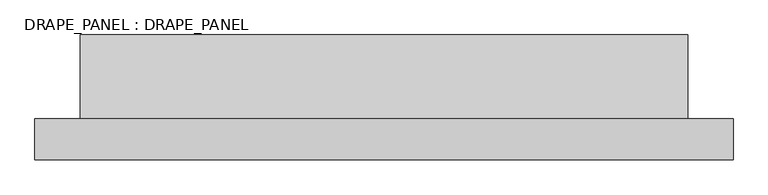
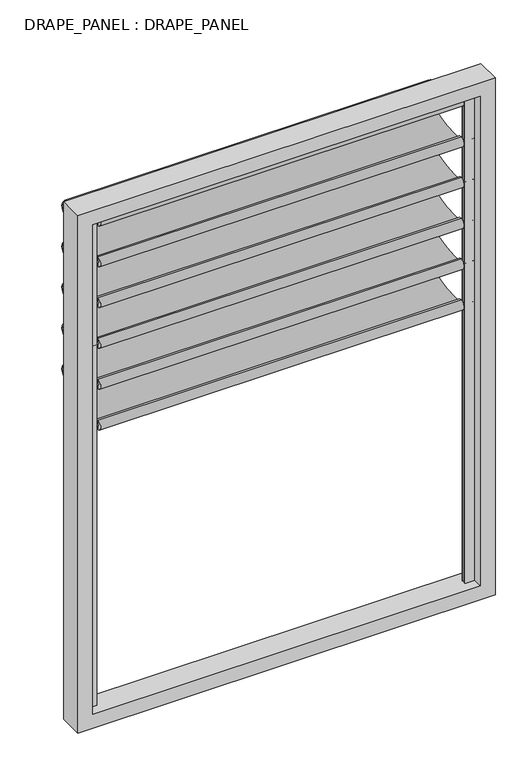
"""IFC4 building model written with IfcOpenShell, lengths in millimetres: plate geometry, DRAPE_PANEL : DRAPE_PANEL."""

import ifcopenshell
import ifcopenshell.guid

model = None  # the IFC model being written
_history = None  # IfcOwnerHistory: only IFC2X3 demands one
_inside = {}  # id of a spatial element -> (the spatial element, [elements in it])
_under = {}  # id of a project, library or spatial element -> (it, [spatial elements below it])
_declared = {}  # id of a project -> (the project, [libraries it declares])
_typed = {}  # id of a type object -> (the type object, [elements of that type])
_made_of = {}  # id of a material, layer set ... -> (it, [elements and type objects made of it])


def new_model(schema):
    """Start an empty IFC model of exactly this schema.

    Asked for "IFC4X3", IfcOpenShell would pick the latest addendum, in which some entities
    have other attributes; the version numbers below select the first issue.
    IFC2X3 requires an IfcOwnerHistory on every rooted entity: one is made here for all.
    """
    global model, _history
    if schema == "IFC4X3":
        model = ifcopenshell.file(schema_version=(4, 3, 0, 0))
    else:
        model = ifcopenshell.file(schema=schema)
    _inside.clear()
    _under.clear()
    _declared.clear()
    _typed.clear()
    _made_of.clear()
    _history = None
    if model.schema == "IFC2X3":
        org = make("IfcOrganization", Name="unknown")
        user = make(
            "IfcPersonAndOrganization",
            ThePerson=make("IfcPerson", FamilyName="unknown"),
            TheOrganization=org,
        )
        app = make(
            "IfcApplication",
            ApplicationDeveloper=org,
            Version="unknown",
            ApplicationFullName="unknown",
            ApplicationIdentifier="unknown",
        )
        _history = make(
            "IfcOwnerHistory",
            OwningUser=user,
            OwningApplication=app,
            ChangeAction="ADDED",
            CreationDate=0,
        )
    return model


def make(cls, **values):
    """One entity of the class cls with the attributes given. An attribute that is None is left unset."""
    return model.create_entity(
        cls, **{name: value for name, value in values.items() if value is not None}
    )


def rooted(cls, **values):
    """An entity with a GlobalId (a new one), such as an element, a storey or a relation."""
    return make(cls, GlobalId=ifcopenshell.guid.new(), OwnerHistory=_history, **values)


def si_unit(unit_type, name, prefix=None):
    """IfcSIUnit, for example si_unit("LENGTHUNIT", "METRE", prefix="MILLI")."""
    return make("IfcSIUnit", UnitType=unit_type, Prefix=prefix, Name=name)


def assignment(units):
    """IfcUnitAssignment: the units of a project."""
    return None if units is None else make("IfcUnitAssignment", Units=units)


def point(xyz):
    """IfcCartesianPoint."""
    return None if xyz is None else make("IfcCartesianPoint", Coordinates=xyz)


def direction(xyz):
    """IfcDirection."""
    return None if xyz is None else make("IfcDirection", DirectionRatios=xyz)


def frame(location, z_axis=None, x_axis=None):
    """IfcAxis2Placement3D, a coordinate frame: its origin and axes. An axis left out is left unset."""
    return make(
        "IfcAxis2Placement3D",
        Location=point(location),
        Axis=direction(z_axis),
        RefDirection=direction(x_axis),
    )


def origin():
    """The frame at (0, 0, 0) with its axes left unset."""
    return frame((0.0, 0.0, 0.0))


def place(relative_to, where):
    """IfcLocalPlacement: puts the frame where relative to a parent placement (None: the world)."""
    return make(
        "IfcLocalPlacement", PlacementRelTo=relative_to, RelativePlacement=where
    )


def context(
    kind, dimensions, precision=None, world=None, true_north=None, identifier=None
):
    """IfcGeometricRepresentationContext, for example the 3D "Model" context."""
    return make(
        "IfcGeometricRepresentationContext",
        ContextIdentifier=identifier,
        ContextType=kind,
        CoordinateSpaceDimension=dimensions,
        Precision=precision,
        WorldCoordinateSystem=world,
        TrueNorth=true_north,
    )


def project(units=None, contexts=None):
    """IfcProject with its units and contexts."""
    return rooted(
        "IfcProject",
        Name="project",
        RepresentationContexts=contexts,
        UnitsInContext=assignment(units),
    )


def spatial(cls, under=None, at=None, **own):
    """A site, building, storey or space (cls), placed at a placement, below another one or the project."""
    s = rooted(cls, ObjectPlacement=at, **own)
    if under is not None:
        _under.setdefault(under.id(), (under, []))[1].append(s)
    return s


def polyline(points):
    """IfcPolyline through the points."""
    return make("IfcPolyline", Points=[point(p) for p in points])


def circle_curve(where, radius):
    """IfcCircle in the frame where."""
    return make("IfcCircle", Position=where, Radius=radius)


def ellipse_curve(where, semi_axis1, semi_axis2):
    """IfcEllipse in the frame where."""
    return make(
        "IfcEllipse", Position=where, SemiAxis1=semi_axis1, SemiAxis2=semi_axis2
    )


def trimmed(basis, trim1, trim2, sense, master):
    """IfcTrimmedCurve: the piece of a basis curve between two trims."""
    return make(
        "IfcTrimmedCurve",
        BasisCurve=basis,
        Trim1=trim1,
        Trim2=trim2,
        SenseAgreement=sense,
        MasterRepresentation=master,
    )


def outline(outer, holes=None, kind="AREA"):
    """IfcArbitraryClosedProfileDef: a profile drawn as a closed curve; with holes, ...WithVoids."""
    if holes is None:
        return make("IfcArbitraryClosedProfileDef", ProfileType=kind, OuterCurve=outer)
    return make(
        "IfcArbitraryProfileDefWithVoids",
        ProfileType=kind,
        OuterCurve=outer,
        InnerCurves=holes,
    )


def extrude(swept, where, along, depth):
    """IfcExtrudedAreaSolid: the profile swept, set in the frame where, extruded along a direction by depth."""
    return make(
        "IfcExtrudedAreaSolid",
        SweptArea=swept,
        Position=where,
        ExtrudedDirection=direction(along),
        Depth=depth,
    )


def shape(context_of_items, identifier, shape_type, items):
    """IfcShapeRepresentation: the items that make up one representation, for example the "Body"."""
    return make(
        "IfcShapeRepresentation",
        ContextOfItems=context_of_items,
        RepresentationIdentifier=identifier,
        RepresentationType=shape_type,
        Items=items,
    )


def source(mapping_origin, context_of_items, identifier, shape_type, items):
    """IfcRepresentationMap: a shape defined once, which mapped items show again and again."""
    return make(
        "IfcRepresentationMap",
        MappingOrigin=mapping_origin,
        MappedRepresentation=shape(context_of_items, identifier, shape_type, items),
    )


def transform(
    local_origin,
    x_axis=None,
    y_axis=None,
    z_axis=None,
    scale=None,
    scale2=None,
    scale3=None,
    uniform=True,
):
    """IfcCartesianTransformationOperator3D, or its non-uniform kind. x_axis, y_axis, z_axis: its Axis1, 2, 3."""
    if uniform:
        return make(
            "IfcCartesianTransformationOperator3D",
            Axis1=direction(x_axis),
            Axis2=direction(y_axis),
            LocalOrigin=point(local_origin),
            Scale=scale,
            Axis3=direction(z_axis),
        )
    return make(
        "IfcCartesianTransformationOperator3DnonUniform",
        Axis1=direction(x_axis),
        Axis2=direction(y_axis),
        LocalOrigin=point(local_origin),
        Scale=scale,
        Axis3=direction(z_axis),
        Scale2=scale2,
        Scale3=scale3,
    )


def mapped(mapping_source, mapping_target):
    """IfcMappedItem: shows the shape of a source again, moved by a transform."""
    return make(
        "IfcMappedItem", MappingSource=mapping_source, MappingTarget=mapping_target
    )


def made_of(thing, what):
    """Note that an element or type object is made of a material, layer set ...; save() writes the relation."""
    if what is not None:
        _made_of.setdefault(what.id(), (what, []))[1].append(thing)
    return thing


def element(
    cls,
    number,
    at=None,
    inside=None,
    cuts=None,
    type_object=None,
    material=None,
    context=None,
    identifier="Body",
    shape_type=None,
    held_by="IfcProductDefinitionShape",
    body=None,
    shapes=None,
    **own,
):
    """One element of the class cls, such as IfcWall. Its Tag is "e" and its number.

    at: its placement. inside: the storey or other place that contains it. cuts: it is an
    opening in that element (IfcRelVoidsElement). A single representation is given by context,
    identifier, shape_type and body (its items); several are given by shapes. held_by: the class
    of the entity that holds the representations. save() writes the other relations.
    """
    e = rooted(cls, Tag="e%d" % number, ObjectPlacement=at, **own)
    if body is not None:
        shapes = [shape(context, identifier, shape_type, body)]
    if shapes is not None:
        e.Representation = make(held_by, Representations=shapes)
    if inside is not None:
        _inside.setdefault(inside.id(), (inside, []))[1].append(e)
    if cuts is not None:
        rooted(
            "IfcRelVoidsElement", RelatingBuildingElement=cuts, RelatedOpeningElement=e
        )
    if type_object is not None:
        _typed.setdefault(type_object.id(), (type_object, []))[1].append(e)
    return made_of(e, material)


def aggregate(whole, parts):
    """IfcRelAggregates: a whole, such as a stair, and the parts it consists of."""
    return rooted("IfcRelAggregates", RelatingObject=whole, RelatedObjects=parts)


def save(model, path):
    """Write the relations noted so far, then the file.

    IfcRelAggregates (storeys below a building ...), IfcRelContainedInSpatialStructure (elements
    in a storey), IfcRelDefinesByType, IfcRelAssociatesMaterial and IfcRelDeclares: one each for
    every whole, place, type object, material and project.
    """
    for whole, parts in _under.values():
        aggregate(whole, parts)
    for where, things in _inside.values():
        rooted(
            "IfcRelContainedInSpatialStructure",
            RelatedElements=things,
            RelatingStructure=where,
        )
    for kind, things in _typed.values():
        rooted("IfcRelDefinesByType", RelatedObjects=things, RelatingType=kind)
    for what, things in _made_of.values():
        rooted("IfcRelAssociatesMaterial", RelatedObjects=things, RelatingMaterial=what)
    for by, libraries in _declared.values():
        rooted("IfcRelDeclares", RelatingContext=by, RelatedDefinitions=libraries)
    model.write(path)


def plane_surface(at):
    """IfcPlane: the flat surface through the origin of the frame at, square to its z axis."""
    return make("IfcPlane", Position=at)


def cylinder_surface(at, radius):
    """IfcCylindricalSurface: all points at the distance radius from the z axis of the frame at."""
    return make("IfcCylindricalSurface", Position=at, Radius=radius)


def extruded_surface(curve, direction_of_extrusion, depth):
    """IfcSurfaceOfLinearExtrusion: the curve pushed along a direction by depth."""
    return make(
        "IfcSurfaceOfLinearExtrusion",
        SweptCurve=make("IfcArbitraryOpenProfileDef", ProfileType="CURVE", Curve=curve),
        ExtrudedDirection=direction(direction_of_extrusion),
        Depth=depth,
    )


def advanced_brep(points, edges, surfaces, faces):
    """IfcAdvancedBrep: a solid bounded by faces that lie on surfaces and meet in shared edges.

    An edge is (start, end): straight between two places in points (the first is 0);
    or (start, end, curve); or (start, end, curve, False) where it runs against its curve.
    A face is (place in surfaces, loops), or (place, loops, False) where it looks against
    its surface's normal. A loop lists edges by number (the first is 1), with a minus sign
    where the edge is run from its end to its start. The first loop is the outer one.
    """
    corners = [point(p) for p in points]
    vertices = [make("IfcVertexPoint", VertexGeometry=c) for c in corners]
    made = []
    for start, end, *more in edges:
        made.append(
            make(
                "IfcEdgeCurve",
                EdgeStart=vertices[start],
                EdgeEnd=vertices[end],
                EdgeGeometry=more[0] if more else make("IfcPolyline", Points=[corners[start], corners[end]]),
                SameSense=more[1] if len(more) > 1 else True,
            )
        )
    hull = []
    for where, loops, *sense in faces:
        bounds = []
        for j, loop in enumerate(loops):
            ring = [make("IfcOrientedEdge", EdgeElement=made[abs(k) - 1], Orientation=k > 0) for k in loop]
            bounds.append(
                make(
                    "IfcFaceOuterBound" if j == 0 else "IfcFaceBound",
                    Bound=make("IfcEdgeLoop", EdgeList=ring),
                    Orientation=True,
                )
            )
        hull.append(make("IfcAdvancedFace", Bounds=bounds, FaceSurface=surfaces[where], SameSense=sense[0] if sense else True))
    return make("IfcAdvancedBrep", Outer=make("IfcClosedShell", CfsFaces=hull))


def drape_panel_drape_panel_c3243e83(model_context):
    return source(origin(), model_context, "Body", "SolidModel", [
        advanced_brep(
        [(-790.0, 0.0, 1611.5019792), (-790.0, 0.0, 1616.5019792), (-790.0, 0.0, 1606.5019792), (790.0, 0.0, 1606.5019792), (790.0, 0.0, 1616.5019792), (790.0, 0.0, 1611.5019792), (740.0, 0.0, 1606.5019792), (740.0, 0.0, 1616.5019792), (740.0, 0.0, 1591.5019792), (740.0, 0.0, 1631.5019792), (-740.0, 0.0, 1591.5019792), (-740.0, 0.0, 1631.5019792), (-740.0, 0.0, 1606.5019792), (-740.0, 0.0, 1616.5019792)],
        [
            (0, 1),
            (1, 2, circle_curve(frame((-790.0, 0.0, 1611.5019792), z_axis=(-1.0, 0.0, 0.0), x_axis=(0.0, 0.0, 1.0)), 5.0)),
            (2, 0),
            (2, 1, circle_curve(frame((-790.0, 0.0, 1611.5019792), z_axis=(-1.0, 0.0, 0.0), x_axis=(0.0, 0.0, 1.0)), 5.0)),
            (3, 4, circle_curve(frame((790.0, 0.0, 1611.5019792), z_axis=(1.0, 0.0, 0.0), x_axis=(0.0, 0.0, 1.0)), 5.0)),
            (4, 5),
            (5, 3),
            (4, 3, circle_curve(frame((790.0, 0.0, 1611.5019792), z_axis=(1.0, 0.0, 0.0), x_axis=(0.0, 0.0, 1.0)), 5.0)),
            (6, 7, circle_curve(frame((740.0, 0.0, 1611.5019792), z_axis=(1.0, 0.0, 0.0), x_axis=(0.0, 0.0, 1.0)), 5.0)),
            (7, 4),
            (3, 6),
            (7, 6, circle_curve(frame((740.0, 0.0, 1611.5019792), z_axis=(1.0, 0.0, 0.0), x_axis=(0.0, 0.0, 1.0)), 5.0)),
            (8, 9, circle_curve(frame((740.0, 0.0, 1611.5019792), z_axis=(1.0, 0.0, 0.0), x_axis=(0.0, 0.0, 1.0)), 20.0)),
            (9, 7),
            (6, 8),
            (9, 8, circle_curve(frame((740.0, 0.0, 1611.5019792), z_axis=(1.0, 0.0, 0.0), x_axis=(0.0, 0.0, 1.0)), 20.0)),
            (10, 11, circle_curve(frame((-740.0, 0.0, 1611.5019792), z_axis=(1.0, 0.0, 0.0), x_axis=(0.0, 0.0, 1.0)), 20.0)),
            (11, 9),
            (8, 10),
            (11, 10, circle_curve(frame((-740.0, 0.0, 1611.5019792), z_axis=(1.0, 0.0, 0.0), x_axis=(0.0, 0.0, 1.0)), 20.0)),
            (12, 13, circle_curve(frame((-740.0, 0.0, 1611.5019792), z_axis=(1.0, 0.0, 0.0), x_axis=(0.0, 0.0, 1.0)), 5.0)),
            (13, 11),
            (10, 12),
            (13, 12, circle_curve(frame((-740.0, 0.0, 1611.5019792), z_axis=(1.0, 0.0, 0.0), x_axis=(0.0, 0.0, 1.0)), 5.0)),
            (1, 13),
            (12, 2),
        ],
        [
            plane_surface(frame((-790.0, 0.0, 1611.5019792), z_axis=(-1.0, 0.0, 0.0), x_axis=(0.0, 0.0, 1.0))),
            plane_surface(frame((790.0, 0.0, 1611.5019792), z_axis=(1.0, 0.0, 0.0), x_axis=(0.0, 0.0, 1.0))),
            cylinder_surface(frame((6238.8752301, 0.0, 1611.5019792), z_axis=(-1.0, 0.0, 0.0), x_axis=(0.0, 0.0, 1.0)), 5.0),
            plane_surface(frame((740.0, 0.0, 1611.5019792), z_axis=(1.0, 0.0, 0.0), x_axis=(0.0, 0.0, 1.0))),
            cylinder_surface(frame((6238.8752301, 0.0, 1611.5019792), z_axis=(-1.0, 0.0, 0.0), x_axis=(0.0, 0.0, 1.0)), 20.0),
            plane_surface(frame((-740.0, 0.0, 1611.5019792), z_axis=(-1.0, 0.0, 0.0), x_axis=(0.0, 0.0, 1.0))),
        ],
        [
            (0, [[1, 2, 3]]),
            (0, [[-3, 4, -1]]),
            (1, [[5, 6, 7]]),
            (1, [[8, -7, -6]]),
            (2, [[9, 10, -5, 11]]),
            (2, [[12, -11, -8, -10]]),
            (3, [[13, 14, -9, 15]]),
            (3, [[16, -15, -12, -14]]),
            (4, [[17, 18, -13, 19]]),
            (4, [[20, -19, -16, -18]]),
            (5, [[21, 22, -17, 23]]),
            (5, [[24, -23, -20, -22]]),
            (2, [[-2, 25, -21, 26]]),
            (2, [[-4, -26, -24, -25]]),
        ],
    ),
        advanced_brep(
        [(740.0, 0.0, 1611.5019792), (740.0, 0.0, 1608.5019792), (740.0, 0.0, 1438.7509896), (740.0, 0.0, 1435.7509896), (-740.0, 0.0, 1611.5019792), (-740.0, 0.0, 1435.7509896), (-740.0, 0.0, 1438.7509896), (-740.0, 0.0, 1608.5019792)],
        [
            (0, 1),
            (1, 2, ellipse_curve(frame((740.0, 0.0, 1523.6264844), z_axis=(-1.0, 0.0, 0.0), x_axis=(0.0, -1.0, 0.0)), 250.5597903, 84.8754948)),
            (2, 3),
            (3, 0, ellipse_curve(frame((740.0, 0.0, 1523.6264844), z_axis=(1.0, 0.0, 0.0), x_axis=(0.0, 1.0, 0.0)), 253.5597903, 87.8754948)),
            (4, 5, ellipse_curve(frame((-740.0, 0.0, 1523.6264844), z_axis=(-1.0, 0.0, 0.0), x_axis=(0.0, 0.0, -1.0)), 87.8754948, 253.5597903)),
            (5, 6),
            (6, 7, ellipse_curve(frame((-740.0, 0.0, 1523.6264844), z_axis=(1.0, 0.0, 0.0), x_axis=(0.0, 0.0, -1.0)), 84.8754948, 250.5597903)),
            (7, 4),
            (0, 4),
            (7, 1),
            (6, 2),
            (5, 3),
        ],
        [
            plane_surface(frame((740.0, 0.0, 1611.5019792), z_axis=(1.0, 0.0, 0.0), x_axis=(0.0, -1.9626251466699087e-12, -1.0))),
            plane_surface(frame((-740.0, 0.0, 1611.5019792), z_axis=(-1.0, 0.0, 0.0), x_axis=(0.0, 1.9626251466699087e-12, 1.0))),
            plane_surface(frame((740.0, 0.0, 1611.5019792), z_axis=(0.0, -1.0, 1.9626251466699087e-12), x_axis=(-1.0, 0.0, 0.0))),
            extruded_surface(trimmed(ellipse_curve(frame((-2220.0, 0.0, 1523.6264844), z_axis=(-1.0, 0.0, 0.0), x_axis=(0.0, 0.0, -1.0)), 84.8754948, 250.5597903), [point((-2220.0, 0.0, 1608.5019792))], [point((-2220.0, 0.0, 1438.7509896))], True, "CARTESIAN"), (1480.0, 0.0, 0.0), 1480.0),
            plane_surface(frame((740.0, 0.0, 1438.7509896), z_axis=(0.0, -1.0, 0.0), x_axis=(-1.0, 0.0, 0.0))),
            extruded_surface(trimmed(ellipse_curve(frame((-2220.0, 0.0, 1523.6264844), z_axis=(1.0, 0.0, 0.0), x_axis=(0.0, 0.0, -1.0)), 87.8754948, 253.5597903), [point((-2220.0, 0.0, 1435.7509896))], [point((-2220.0, 0.0, 1611.5019792))], True, "CARTESIAN"), (1480.0, 0.0, 0.0), 1480.0),
        ],
        [
            (0, [[1, 2, 3, 4]]),
            (1, [[5, 6, 7, 8]]),
            (2, [[-1, 9, -8, 10]]),
            (3, [[-2, -10, -7, 11]]),
            (4, [[-3, -11, -6, 12]]),
            (5, [[-4, -12, -5, -9]]),
        ],
    ),
        advanced_brep(
        [(-790.0, 0.0, 1787.2529688), (-790.0, 0.0, 1792.2529688), (-790.0, 0.0, 1782.2529688), (790.0, 0.0, 1782.2529688), (790.0, 0.0, 1792.2529688), (790.0, 0.0, 1787.2529688), (740.0, 0.0, 1782.2529688), (740.0, 0.0, 1792.2529688), (740.0, 0.0, 1767.2529688), (740.0, 0.0, 1807.2529688), (-740.0, 0.0, 1767.2529688), (-740.0, 0.0, 1807.2529688), (-740.0, 0.0, 1782.2529688), (-740.0, 0.0, 1792.2529688)],
        [
            (0, 1),
            (1, 2, circle_curve(frame((-790.0, 0.0, 1787.2529688), z_axis=(-1.0, 0.0, 0.0), x_axis=(0.0, 0.0, 1.0)), 5.0)),
            (2, 0),
            (2, 1, circle_curve(frame((-790.0, 0.0, 1787.2529688), z_axis=(-1.0, 0.0, 0.0), x_axis=(0.0, 0.0, 1.0)), 5.0)),
            (3, 4, circle_curve(frame((790.0, 0.0, 1787.2529688), z_axis=(1.0, 0.0, 0.0), x_axis=(0.0, 0.0, 1.0)), 5.0)),
            (4, 5),
            (5, 3),
            (4, 3, circle_curve(frame((790.0, 0.0, 1787.2529688), z_axis=(1.0, 0.0, 0.0), x_axis=(0.0, 0.0, 1.0)), 5.0)),
            (6, 7, circle_curve(frame((740.0, 0.0, 1787.2529688), z_axis=(1.0, 0.0, 0.0), x_axis=(0.0, 0.0, 1.0)), 5.0)),
            (7, 4),
            (3, 6),
            (7, 6, circle_curve(frame((740.0, 0.0, 1787.2529688), z_axis=(1.0, 0.0, 0.0), x_axis=(0.0, 0.0, 1.0)), 5.0)),
            (8, 9, circle_curve(frame((740.0, 0.0, 1787.2529688), z_axis=(1.0, 0.0, 0.0), x_axis=(0.0, 0.0, 1.0)), 20.0)),
            (9, 7),
            (6, 8),
            (9, 8, circle_curve(frame((740.0, 0.0, 1787.2529688), z_axis=(1.0, 0.0, 0.0), x_axis=(0.0, 0.0, 1.0)), 20.0)),
            (10, 11, circle_curve(frame((-740.0, 0.0, 1787.2529688), z_axis=(1.0, 0.0, 0.0), x_axis=(0.0, 0.0, 1.0)), 20.0)),
            (11, 9),
            (8, 10),
            (11, 10, circle_curve(frame((-740.0, 0.0, 1787.2529688), z_axis=(1.0, 0.0, 0.0), x_axis=(0.0, 0.0, 1.0)), 20.0)),
            (12, 13, circle_curve(frame((-740.0, 0.0, 1787.2529688), z_axis=(1.0, 0.0, 0.0), x_axis=(0.0, 0.0, 1.0)), 5.0)),
            (13, 11),
            (10, 12),
            (13, 12, circle_curve(frame((-740.0, 0.0, 1787.2529688), z_axis=(1.0, 0.0, 0.0), x_axis=(0.0, 0.0, 1.0)), 5.0)),
            (1, 13),
            (12, 2),
        ],
        [
            plane_surface(frame((-790.0, 0.0, 1787.2529688), z_axis=(-1.0, 0.0, 0.0), x_axis=(0.0, 0.0, 1.0))),
            plane_surface(frame((790.0, 0.0, 1787.2529688), z_axis=(1.0, 0.0, 0.0), x_axis=(0.0, 0.0, 1.0))),
            cylinder_surface(frame((6238.8752301, 0.0, 1787.2529688), z_axis=(-1.0, 0.0, 0.0), x_axis=(0.0, 0.0, 1.0)), 5.0),
            plane_surface(frame((740.0, 0.0, 1787.2529688), z_axis=(1.0, 0.0, 0.0), x_axis=(0.0, 0.0, 1.0))),
            cylinder_surface(frame((6238.8752301, 0.0, 1787.2529688), z_axis=(-1.0, 0.0, 0.0), x_axis=(0.0, 0.0, 1.0)), 20.0),
            plane_surface(frame((-740.0, 0.0, 1787.2529688), z_axis=(-1.0, 0.0, 0.0), x_axis=(0.0, 0.0, 1.0))),
        ],
        [
            (0, [[1, 2, 3]]),
            (0, [[-3, 4, -1]]),
            (1, [[5, 6, 7]]),
            (1, [[8, -7, -6]]),
            (2, [[9, 10, -5, 11]]),
            (2, [[12, -11, -8, -10]]),
            (3, [[13, 14, -9, 15]]),
            (3, [[16, -15, -12, -14]]),
            (4, [[17, 18, -13, 19]]),
            (4, [[20, -19, -16, -18]]),
            (5, [[21, 22, -17, 23]]),
            (5, [[24, -23, -20, -22]]),
            (2, [[-2, 25, -21, 26]]),
            (2, [[-4, -26, -24, -25]]),
        ],
    ),
        advanced_brep(
        [(740.0, 0.0, 1787.2529688), (740.0, 0.0, 1784.2529688), (740.0, 0.0, 1614.5019792), (740.0, 0.0, 1611.5019792), (-740.0, 0.0, 1787.2529688), (-740.0, 0.0, 1611.5019792), (-740.0, 0.0, 1614.5019792), (-740.0, 0.0, 1784.2529688)],
        [
            (0, 1),
            (1, 2, ellipse_curve(frame((740.0, 0.0, 1699.377474), z_axis=(-1.0, 0.0, 0.0), x_axis=(0.0, -1.0, 0.0)), 250.5597903, 84.8754948)),
            (2, 3),
            (3, 0, ellipse_curve(frame((740.0, 0.0, 1699.377474), z_axis=(1.0, 0.0, 0.0), x_axis=(0.0, 1.0, 0.0)), 253.5597903, 87.8754948)),
            (4, 5, ellipse_curve(frame((-740.0, 0.0, 1699.377474), z_axis=(-1.0, 0.0, 0.0), x_axis=(0.0, 0.0, -1.0)), 87.8754948, 253.5597903)),
            (5, 6),
            (6, 7, ellipse_curve(frame((-740.0, 0.0, 1699.377474), z_axis=(1.0, 0.0, 0.0), x_axis=(0.0, 0.0, -1.0)), 84.8754948, 250.5597903)),
            (7, 4),
            (0, 4),
            (7, 1),
            (6, 2),
            (5, 3),
        ],
        [
            plane_surface(frame((740.0, 0.0, 1787.2529688), z_axis=(1.0, 0.0, 0.0), x_axis=(0.0, -1.9626251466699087e-12, -1.0))),
            plane_surface(frame((-740.0, 0.0, 1787.2529688), z_axis=(-1.0, 0.0, 0.0), x_axis=(0.0, 1.9626251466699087e-12, 1.0))),
            plane_surface(frame((740.0, 0.0, 1787.2529688), z_axis=(0.0, -1.0, 1.9626251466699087e-12), x_axis=(-1.0, 0.0, 0.0))),
            extruded_surface(trimmed(ellipse_curve(frame((-2220.0, 0.0, 1699.377474), z_axis=(-1.0, 0.0, 0.0), x_axis=(0.0, 0.0, -1.0)), 84.8754948, 250.5597903), [point((-2220.0, 0.0, 1784.2529688))], [point((-2220.0, 0.0, 1614.5019792))], True, "CARTESIAN"), (1480.0, 0.0, 0.0), 1480.0),
            plane_surface(frame((740.0, 0.0, 1614.5019792), z_axis=(0.0, -1.0, 0.0), x_axis=(-1.0, 0.0, 0.0))),
            extruded_surface(trimmed(ellipse_curve(frame((-2220.0, 0.0, 1699.377474), z_axis=(1.0, 0.0, 0.0), x_axis=(0.0, 0.0, -1.0)), 87.8754948, 253.5597903), [point((-2220.0, 0.0, 1611.5019792))], [point((-2220.0, 0.0, 1787.2529688))], True, "CARTESIAN"), (1480.0, 0.0, 0.0), 1480.0),
        ],
        [
            (0, [[1, 2, 3, 4]]),
            (1, [[5, 6, 7, 8]]),
            (2, [[-1, 9, -8, 10]]),
            (3, [[-2, -10, -7, 11]]),
            (4, [[-3, -11, -6, 12]]),
            (5, [[-4, -12, -5, -9]]),
        ],
    ),
        advanced_brep(
        [(-790.0, 0.0, 1963.0039583), (-790.0, 0.0, 1968.0039583), (-790.0, 0.0, 1958.0039583), (790.0, 0.0, 1958.0039583), (790.0, 0.0, 1968.0039583), (790.0, 0.0, 1963.0039583), (740.0, 0.0, 1958.0039583), (740.0, 0.0, 1968.0039583), (740.0, 0.0, 1943.0039583), (740.0, 0.0, 1983.0039583), (-740.0, 0.0, 1943.0039583), (-740.0, 0.0, 1983.0039583), (-740.0, 0.0, 1958.0039583), (-740.0, 0.0, 1968.0039583)],
        [
            (0, 1),
            (1, 2, circle_curve(frame((-790.0, 0.0, 1963.0039583), z_axis=(-1.0, 0.0, 0.0), x_axis=(0.0, 0.0, 1.0)), 5.0)),
            (2, 0),
            (2, 1, circle_curve(frame((-790.0, 0.0, 1963.0039583), z_axis=(-1.0, 0.0, 0.0), x_axis=(0.0, 0.0, 1.0)), 5.0)),
            (3, 4, circle_curve(frame((790.0, 0.0, 1963.0039583), z_axis=(1.0, 0.0, 0.0), x_axis=(0.0, 0.0, 1.0)), 5.0)),
            (4, 5),
            (5, 3),
            (4, 3, circle_curve(frame((790.0, 0.0, 1963.0039583), z_axis=(1.0, 0.0, 0.0), x_axis=(0.0, 0.0, 1.0)), 5.0)),
            (6, 7, circle_curve(frame((740.0, 0.0, 1963.0039583), z_axis=(1.0, 0.0, 0.0), x_axis=(0.0, 0.0, 1.0)), 5.0)),
            (7, 4),
            (3, 6),
            (7, 6, circle_curve(frame((740.0, 0.0, 1963.0039583), z_axis=(1.0, 0.0, 0.0), x_axis=(0.0, 0.0, 1.0)), 5.0)),
            (8, 9, circle_curve(frame((740.0, 0.0, 1963.0039583), z_axis=(1.0, 0.0, 0.0), x_axis=(0.0, 0.0, 1.0)), 20.0)),
            (9, 7),
            (6, 8),
            (9, 8, circle_curve(frame((740.0, 0.0, 1963.0039583), z_axis=(1.0, 0.0, 0.0), x_axis=(0.0, 0.0, 1.0)), 20.0)),
            (10, 11, circle_curve(frame((-740.0, 0.0, 1963.0039583), z_axis=(1.0, 0.0, 0.0), x_axis=(0.0, 0.0, 1.0)), 20.0)),
            (11, 9),
            (8, 10),
            (11, 10, circle_curve(frame((-740.0, 0.0, 1963.0039583), z_axis=(1.0, 0.0, 0.0), x_axis=(0.0, 0.0, 1.0)), 20.0)),
            (12, 13, circle_curve(frame((-740.0, 0.0, 1963.0039583), z_axis=(1.0, 0.0, 0.0), x_axis=(0.0, 0.0, 1.0)), 5.0)),
            (13, 11),
            (10, 12),
            (13, 12, circle_curve(frame((-740.0, 0.0, 1963.0039583), z_axis=(1.0, 0.0, 0.0), x_axis=(0.0, 0.0, 1.0)), 5.0)),
            (1, 13),
            (12, 2),
        ],
        [
            plane_surface(frame((-790.0, 0.0, 1963.0039583), z_axis=(-1.0, 0.0, 0.0), x_axis=(0.0, 0.0, 1.0))),
            plane_surface(frame((790.0, 0.0, 1963.0039583), z_axis=(1.0, 0.0, 0.0), x_axis=(0.0, 0.0, 1.0))),
            cylinder_surface(frame((6238.8752301, 0.0, 1963.0039583), z_axis=(-1.0, 0.0, 0.0), x_axis=(0.0, 0.0, 1.0)), 5.0),
            plane_surface(frame((740.0, 0.0, 1963.0039583), z_axis=(1.0, 0.0, 0.0), x_axis=(0.0, 0.0, 1.0))),
            cylinder_surface(frame((6238.8752301, 0.0, 1963.0039583), z_axis=(-1.0, 0.0, 0.0), x_axis=(0.0, 0.0, 1.0)), 20.0),
            plane_surface(frame((-740.0, 0.0, 1963.0039583), z_axis=(-1.0, 0.0, 0.0), x_axis=(0.0, 0.0, 1.0))),
        ],
        [
            (0, [[1, 2, 3]]),
            (0, [[-3, 4, -1]]),
            (1, [[5, 6, 7]]),
            (1, [[8, -7, -6]]),
            (2, [[9, 10, -5, 11]]),
            (2, [[12, -11, -8, -10]]),
            (3, [[13, 14, -9, 15]]),
            (3, [[16, -15, -12, -14]]),
            (4, [[17, 18, -13, 19]]),
            (4, [[20, -19, -16, -18]]),
            (5, [[21, 22, -17, 23]]),
            (5, [[24, -23, -20, -22]]),
            (2, [[-2, 25, -21, 26]]),
            (2, [[-4, -26, -24, -25]]),
        ],
    ),
        advanced_brep(
        [(740.0, 0.0, 1963.0039583), (740.0, 0.0, 1960.0039583), (740.0, 0.0, 1790.2529688), (740.0, 0.0, 1787.2529688), (-740.0, 0.0, 1963.0039583), (-740.0, 0.0, 1787.2529688), (-740.0, 0.0, 1790.2529688), (-740.0, 0.0, 1960.0039583)],
        [
            (0, 1),
            (1, 2, ellipse_curve(frame((740.0, 0.0, 1875.1284635), z_axis=(-1.0, 0.0, 0.0), x_axis=(0.0, -1.0, 0.0)), 250.5597903, 84.8754948)),
            (2, 3),
            (3, 0, ellipse_curve(frame((740.0, 0.0, 1875.1284635), z_axis=(1.0, 0.0, 0.0), x_axis=(0.0, 1.0, 0.0)), 253.5597903, 87.8754948)),
            (4, 5, ellipse_curve(frame((-740.0, 0.0, 1875.1284635), z_axis=(-1.0, 0.0, 0.0), x_axis=(0.0, 0.0, -1.0)), 87.8754948, 253.5597903)),
            (5, 6),
            (6, 7, ellipse_curve(frame((-740.0, 0.0, 1875.1284635), z_axis=(1.0, 0.0, 0.0), x_axis=(0.0, 0.0, -1.0)), 84.8754948, 250.5597903)),
            (7, 4),
            (0, 4),
            (7, 1),
            (6, 2),
            (5, 3),
        ],
        [
            plane_surface(frame((740.0, 0.0, 1963.0039583), z_axis=(1.0, 0.0, 0.0), x_axis=(0.0, -1.9626251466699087e-12, -1.0))),
            plane_surface(frame((-740.0, 0.0, 1963.0039583), z_axis=(-1.0, 0.0, 0.0), x_axis=(0.0, 1.9626251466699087e-12, 1.0))),
            plane_surface(frame((740.0, 0.0, 1963.0039583), z_axis=(0.0, -1.0, 1.9626251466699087e-12), x_axis=(-1.0, 0.0, 0.0))),
            extruded_surface(trimmed(ellipse_curve(frame((-2220.0, 0.0, 1875.1284635), z_axis=(-1.0, 0.0, 0.0), x_axis=(0.0, 0.0, -1.0)), 84.8754948, 250.5597903), [point((-2220.0, 0.0, 1960.0039583))], [point((-2220.0, 0.0, 1790.2529687))], True, "CARTESIAN"), (1480.0, 0.0, 0.0), 1480.0),
            plane_surface(frame((740.0, 0.0, 1790.2529688), z_axis=(0.0, -1.0, 0.0), x_axis=(-1.0, 0.0, 0.0))),
            extruded_surface(trimmed(ellipse_curve(frame((-2220.0, 0.0, 1875.1284635), z_axis=(1.0, 0.0, 0.0), x_axis=(0.0, 0.0, -1.0)), 87.8754948, 253.5597903), [point((-2220.0, 0.0, 1787.2529688))], [point((-2220.0, 0.0, 1963.0039583))], True, "CARTESIAN"), (1480.0, 0.0, 0.0), 1480.0),
        ],
        [
            (0, [[1, 2, 3, 4]]),
            (1, [[5, 6, 7, 8]]),
            (2, [[-1, 9, -8, 10]]),
            (3, [[-2, -10, -7, 11]]),
            (4, [[-3, -11, -6, 12]]),
            (5, [[-4, -12, -5, -9]]),
        ],
    ),
        advanced_brep(
        [(-790.0, 0.0, 1435.7509896), (-790.0, 0.0, 1440.7509896), (-790.0, 0.0, 1430.7509896), (790.0, 0.0, 1430.7509896), (790.0, 0.0, 1440.7509896), (790.0, 0.0, 1435.7509896), (740.0, 0.0, 1430.7509896), (740.0, 0.0, 1440.7509896), (740.0, 0.0, 1415.7509896), (740.0, 0.0, 1455.7509896), (-740.0, 0.0, 1415.7509896), (-740.0, 0.0, 1455.7509896), (-740.0, 0.0, 1430.7509896), (-740.0, 0.0, 1440.7509896)],
        [
            (0, 1),
            (1, 2, circle_curve(frame((-790.0, 0.0, 1435.7509896), z_axis=(-1.0, 0.0, 0.0), x_axis=(0.0, 0.0, 1.0)), 5.0)),
            (2, 0),
            (2, 1, circle_curve(frame((-790.0, 0.0, 1435.7509896), z_axis=(-1.0, 0.0, 0.0), x_axis=(0.0, 0.0, 1.0)), 5.0)),
            (3, 4, circle_curve(frame((790.0, 0.0, 1435.7509896), z_axis=(1.0, 0.0, 0.0), x_axis=(0.0, 0.0, 1.0)), 5.0)),
            (4, 5),
            (5, 3),
            (4, 3, circle_curve(frame((790.0, 0.0, 1435.7509896), z_axis=(1.0, 0.0, 0.0), x_axis=(0.0, 0.0, 1.0)), 5.0)),
            (6, 7, circle_curve(frame((740.0, 0.0, 1435.7509896), z_axis=(1.0, 0.0, 0.0), x_axis=(0.0, 0.0, 1.0)), 5.0)),
            (7, 4),
            (3, 6),
            (7, 6, circle_curve(frame((740.0, 0.0, 1435.7509896), z_axis=(1.0, 0.0, 0.0), x_axis=(0.0, 0.0, 1.0)), 5.0)),
            (8, 9, circle_curve(frame((740.0, 0.0, 1435.7509896), z_axis=(1.0, 0.0, 0.0), x_axis=(0.0, 0.0, 1.0)), 20.0)),
            (9, 7),
            (6, 8),
            (9, 8, circle_curve(frame((740.0, 0.0, 1435.7509896), z_axis=(1.0, 0.0, 0.0), x_axis=(0.0, 0.0, 1.0)), 20.0)),
            (10, 11, circle_curve(frame((-740.0, 0.0, 1435.7509896), z_axis=(1.0, 0.0, 0.0), x_axis=(0.0, 0.0, 1.0)), 20.0)),
            (11, 9),
            (8, 10),
            (11, 10, circle_curve(frame((-740.0, 0.0, 1435.7509896), z_axis=(1.0, 0.0, 0.0), x_axis=(0.0, 0.0, 1.0)), 20.0)),
            (12, 13, circle_curve(frame((-740.0, 0.0, 1435.7509896), z_axis=(1.0, 0.0, 0.0), x_axis=(0.0, 0.0, 1.0)), 5.0)),
            (13, 11),
            (10, 12),
            (13, 12, circle_curve(frame((-740.0, 0.0, 1435.7509896), z_axis=(1.0, 0.0, 0.0), x_axis=(0.0, 0.0, 1.0)), 5.0)),
            (1, 13),
            (12, 2),
        ],
        [
            plane_surface(frame((-790.0, 0.0, 1435.7509896), z_axis=(-1.0, 0.0, 0.0), x_axis=(0.0, 0.0, 1.0))),
            plane_surface(frame((790.0, 0.0, 1435.7509896), z_axis=(1.0, 0.0, 0.0), x_axis=(0.0, 0.0, 1.0))),
            cylinder_surface(frame((6238.8752301, 0.0, 1435.7509896), z_axis=(-1.0, 0.0, 0.0), x_axis=(0.0, 0.0, 1.0)), 5.0),
            plane_surface(frame((740.0, 0.0, 1435.7509896), z_axis=(1.0, 0.0, 0.0), x_axis=(0.0, 0.0, 1.0))),
            cylinder_surface(frame((6238.8752301, 0.0, 1435.7509896), z_axis=(-1.0, 0.0, 0.0), x_axis=(0.0, 0.0, 1.0)), 20.0),
            plane_surface(frame((-740.0, 0.0, 1435.7509896), z_axis=(-1.0, 0.0, 0.0), x_axis=(0.0, 0.0, 1.0))),
        ],
        [
            (0, [[1, 2, 3]]),
            (0, [[-3, 4, -1]]),
            (1, [[5, 6, 7]]),
            (1, [[8, -7, -6]]),
            (2, [[9, 10, -5, 11]]),
            (2, [[12, -11, -8, -10]]),
            (3, [[13, 14, -9, 15]]),
            (3, [[16, -15, -12, -14]]),
            (4, [[17, 18, -13, 19]]),
            (4, [[20, -19, -16, -18]]),
            (5, [[21, 22, -17, 23]]),
            (5, [[24, -23, -20, -22]]),
            (2, [[-2, 25, -21, 26]]),
            (2, [[-4, -26, -24, -25]]),
        ],
    ),
        advanced_brep(
        [(740.0, 0.0, 1435.7509896), (740.0, 0.0, 1432.7509896), (740.0, 0.0, 1263.0), (740.0, 0.0, 1260.0), (-740.0, 0.0, 1435.7509896), (-740.0, 0.0, 1260.0), (-740.0, 0.0, 1263.0), (-740.0, 0.0, 1432.7509896)],
        [
            (0, 1),
            (1, 2, ellipse_curve(frame((740.0, 0.0, 1347.8754948), z_axis=(-1.0, 0.0, 0.0), x_axis=(0.0, -1.0, 0.0)), 250.5597903, 84.8754948)),
            (2, 3),
            (3, 0, ellipse_curve(frame((740.0, 0.0, 1347.8754948), z_axis=(1.0, 0.0, 0.0), x_axis=(0.0, 1.0, 0.0)), 253.5597903, 87.8754948)),
            (4, 5, ellipse_curve(frame((-740.0, 0.0, 1347.8754948), z_axis=(-1.0, 0.0, 0.0), x_axis=(0.0, 0.0, -1.0)), 87.8754948, 253.5597903)),
            (5, 6),
            (6, 7, ellipse_curve(frame((-740.0, 0.0, 1347.8754948), z_axis=(1.0, 0.0, 0.0), x_axis=(0.0, 0.0, -1.0)), 84.8754948, 250.5597903)),
            (7, 4),
            (0, 4),
            (7, 1),
            (6, 2),
            (5, 3),
        ],
        [
            plane_surface(frame((740.0, 0.0, 1435.7509896), z_axis=(1.0, 0.0, 0.0), x_axis=(0.0, -1.9626251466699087e-12, -1.0))),
            plane_surface(frame((-740.0, 0.0, 1435.7509896), z_axis=(-1.0, 0.0, 0.0), x_axis=(0.0, 1.9626251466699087e-12, 1.0))),
            plane_surface(frame((740.0, 0.0, 1435.7509896), z_axis=(0.0, -1.0, 1.9626251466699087e-12), x_axis=(-1.0, 0.0, 0.0))),
            extruded_surface(trimmed(ellipse_curve(frame((-2220.0, 0.0, 1347.8754948), z_axis=(-1.0, 0.0, 0.0), x_axis=(0.0, 0.0, -1.0)), 84.8754948, 250.5597903), [point((-2220.0, 0.0, 1432.7509896))], [point((-2220.0, 0.0, 1263.0))], True, "CARTESIAN"), (1480.0, 0.0, 0.0), 1480.0),
            plane_surface(frame((740.0, 0.0, 1263.0), z_axis=(0.0, -1.0, 0.0), x_axis=(-1.0, 0.0, 0.0))),
            extruded_surface(trimmed(ellipse_curve(frame((-2220.0, 0.0, 1347.8754948), z_axis=(1.0, 0.0, 0.0), x_axis=(0.0, 0.0, -1.0)), 87.8754948, 253.5597903), [point((-2220.0, 0.0, 1260.0))], [point((-2220.0, 0.0, 1435.7509896))], True, "CARTESIAN"), (1480.0, 0.0, 0.0), 1480.0),
        ],
        [
            (0, [[1, 2, 3, 4]]),
            (1, [[5, 6, 7, 8]]),
            (2, [[-1, 9, -8, 10]]),
            (3, [[-2, -10, -7, 11]]),
            (4, [[-3, -11, -6, 12]]),
            (5, [[-4, -12, -5, -9]]),
        ],
    ),
        advanced_brep(
        [(-790.0, 0.0, 2138.7549479), (-790.0, 0.0, 2143.7549479), (-790.0, 0.0, 2133.7549479), (790.0, 0.0, 2133.7549479), (790.0, 0.0, 2143.7549479), (790.0, 0.0, 2138.7549479), (740.0, 0.0, 2133.7549479), (740.0, 0.0, 2143.7549479), (740.0, 0.0, 2118.7549479), (740.0, 0.0, 2158.7549479), (-740.0, 0.0, 2118.7549479), (-740.0, 0.0, 2158.7549479), (-740.0, 0.0, 2133.7549479), (-740.0, 0.0, 2143.7549479)],
        [
            (0, 1),
            (1, 2, circle_curve(frame((-790.0, 0.0, 2138.7549479), z_axis=(-1.0, 0.0, 0.0), x_axis=(0.0, 0.0, 1.0)), 5.0)),
            (2, 0),
            (2, 1, circle_curve(frame((-790.0, 0.0, 2138.7549479), z_axis=(-1.0, 0.0, 0.0), x_axis=(0.0, 0.0, 1.0)), 5.0)),
            (3, 4, circle_curve(frame((790.0, 0.0, 2138.7549479), z_axis=(1.0, 0.0, 0.0), x_axis=(0.0, 0.0, 1.0)), 5.0)),
            (4, 5),
            (5, 3),
            (4, 3, circle_curve(frame((790.0, 0.0, 2138.7549479), z_axis=(1.0, 0.0, 0.0), x_axis=(0.0, 0.0, 1.0)), 5.0)),
            (6, 7, circle_curve(frame((740.0, 0.0, 2138.7549479), z_axis=(1.0, 0.0, 0.0), x_axis=(0.0, 0.0, 1.0)), 5.0)),
            (7, 4),
            (3, 6),
            (7, 6, circle_curve(frame((740.0, 0.0, 2138.7549479), z_axis=(1.0, 0.0, 0.0), x_axis=(0.0, 0.0, 1.0)), 5.0)),
            (8, 9, circle_curve(frame((740.0, 0.0, 2138.7549479), z_axis=(1.0, 0.0, 0.0), x_axis=(0.0, 0.0, 1.0)), 20.0)),
            (9, 7),
            (6, 8),
            (9, 8, circle_curve(frame((740.0, 0.0, 2138.7549479), z_axis=(1.0, 0.0, 0.0), x_axis=(0.0, 0.0, 1.0)), 20.0)),
            (10, 11, circle_curve(frame((-740.0, 0.0, 2138.7549479), z_axis=(1.0, 0.0, 0.0), x_axis=(0.0, 0.0, 1.0)), 20.0)),
            (11, 9),
            (8, 10),
            (11, 10, circle_curve(frame((-740.0, 0.0, 2138.7549479), z_axis=(1.0, 0.0, 0.0), x_axis=(0.0, 0.0, 1.0)), 20.0)),
            (12, 13, circle_curve(frame((-740.0, 0.0, 2138.7549479), z_axis=(1.0, 0.0, 0.0), x_axis=(0.0, 0.0, 1.0)), 5.0)),
            (13, 11),
            (10, 12),
            (13, 12, circle_curve(frame((-740.0, 0.0, 2138.7549479), z_axis=(1.0, 0.0, 0.0), x_axis=(0.0, 0.0, 1.0)), 5.0)),
            (1, 13),
            (12, 2),
        ],
        [
            plane_surface(frame((-790.0, 0.0, 2138.7549479), z_axis=(-1.0, 0.0, 0.0), x_axis=(0.0, 0.0, 1.0))),
            plane_surface(frame((790.0, 0.0, 2138.7549479), z_axis=(1.0, 0.0, 0.0), x_axis=(0.0, 0.0, 1.0))),
            cylinder_surface(frame((6238.8752301, 0.0, 2138.7549479), z_axis=(-1.0, 0.0, 0.0), x_axis=(0.0, 0.0, 1.0)), 5.0),
            plane_surface(frame((740.0, 0.0, 2138.7549479), z_axis=(1.0, 0.0, 0.0), x_axis=(0.0, 0.0, 1.0))),
            cylinder_surface(frame((6238.8752301, 0.0, 2138.7549479), z_axis=(-1.0, 0.0, 0.0), x_axis=(0.0, 0.0, 1.0)), 20.0),
            plane_surface(frame((-740.0, 0.0, 2138.7549479), z_axis=(-1.0, 0.0, 0.0), x_axis=(0.0, 0.0, 1.0))),
        ],
        [
            (0, [[1, 2, 3]]),
            (0, [[-3, 4, -1]]),
            (1, [[5, 6, 7]]),
            (1, [[8, -7, -6]]),
            (2, [[9, 10, -5, 11]]),
            (2, [[12, -11, -8, -10]]),
            (3, [[13, 14, -9, 15]]),
            (3, [[16, -15, -12, -14]]),
            (4, [[17, 18, -13, 19]]),
            (4, [[20, -19, -16, -18]]),
            (5, [[21, 22, -17, 23]]),
            (5, [[24, -23, -20, -22]]),
            (2, [[-2, 25, -21, 26]]),
            (2, [[-4, -26, -24, -25]]),
        ],
    ),
        advanced_brep(
        [(740.0, 0.0, 2138.7549479), (740.0, 0.0, 2135.7549479), (740.0, 0.0, 1966.0039583), (740.0, 0.0, 1963.0039583), (-740.0, 0.0, 2138.7549479), (-740.0, 0.0, 1963.0039583), (-740.0, 0.0, 1966.0039583), (-740.0, 0.0, 2135.7549479)],
        [
            (0, 1),
            (1, 2, ellipse_curve(frame((740.0, 0.0, 2050.8794531), z_axis=(-1.0, 0.0, 0.0), x_axis=(0.0, -1.0, 0.0)), 250.5597903, 84.8754948)),
            (2, 3),
            (3, 0, ellipse_curve(frame((740.0, 0.0, 2050.8794531), z_axis=(1.0, 0.0, 0.0), x_axis=(0.0, 1.0, 0.0)), 253.5597903, 87.8754948)),
            (4, 5, ellipse_curve(frame((-740.0, 0.0, 2050.8794531), z_axis=(-1.0, 0.0, 0.0), x_axis=(0.0, 0.0, -1.0)), 87.8754948, 253.5597903)),
            (5, 6),
            (6, 7, ellipse_curve(frame((-740.0, 0.0, 2050.8794531), z_axis=(1.0, 0.0, 0.0), x_axis=(0.0, 0.0, -1.0)), 84.8754948, 250.5597903)),
            (7, 4),
            (0, 4),
            (7, 1),
            (6, 2),
            (5, 3),
        ],
        [
            plane_surface(frame((740.0, 0.0, 2138.7549479), z_axis=(1.0, 0.0, 0.0), x_axis=(0.0, -1.9626251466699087e-12, -1.0))),
            plane_surface(frame((-740.0, 0.0, 2138.7549479), z_axis=(-1.0, 0.0, 0.0), x_axis=(0.0, 1.9626251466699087e-12, 1.0))),
            plane_surface(frame((740.0, 0.0, 2138.7549479), z_axis=(0.0, -1.0, 1.9626251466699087e-12), x_axis=(-1.0, 0.0, 0.0))),
            extruded_surface(trimmed(ellipse_curve(frame((-2220.0, 0.0, 2050.8794531), z_axis=(-1.0, 0.0, 0.0), x_axis=(0.0, 0.0, -1.0)), 84.8754948, 250.5597903), [point((-2220.0, 0.0, 2135.7549479))], [point((-2220.0, 0.0, 1966.0039583))], True, "CARTESIAN"), (1480.0, 0.0, 0.0), 1480.0),
            plane_surface(frame((740.0, 0.0, 1966.0039583), z_axis=(0.0, -1.0, 0.0), x_axis=(-1.0, 0.0, 0.0))),
            extruded_surface(trimmed(ellipse_curve(frame((-2220.0, 0.0, 2050.8794531), z_axis=(1.0, 0.0, 0.0), x_axis=(0.0, 0.0, -1.0)), 87.8754948, 253.5597903), [point((-2220.0, 0.0, 1963.0039583))], [point((-2220.0, 0.0, 2138.7549479))], True, "CARTESIAN"), (1480.0, 0.0, 0.0), 1480.0),
        ],
        [
            (0, [[1, 2, 3, 4]]),
            (1, [[5, 6, 7, 8]]),
            (2, [[-1, 9, -8, 10]]),
            (3, [[-2, -10, -7, 11]]),
            (4, [[-3, -11, -6, 12]]),
            (5, [[-4, -12, -5, -9]]),
        ],
    ),
        extrude(outline(polyline([(750.0, 5.0), (750.0, 10.0), (790.0, 10.0), (790.0, -10.0), (750.0, -10.0), (750.0, -5.0), (785.0, -5.0), (785.0, 5.0), (750.0, 5.0)])), frame((0.0, 0.0, 60.0), z_axis=(0.0, 0.0, 1.0), x_axis=(1.0, 0.0, 0.0)), (0.0, 0.0, 1.0), 2108.7549479),
        extrude(outline(polyline([(-750.0, 5.0), (-785.0, 5.0), (-785.0, -5.0), (-750.0, -5.0), (-750.0, -10.0), (-790.0, -10.0), (-790.0, 10.0), (-750.0, 10.0), (-750.0, 5.0)])), frame((0.0, 0.0, 60.0), z_axis=(0.0, 0.0, 1.0), x_axis=(1.0, 0.0, 0.0)), (0.0, 0.0, 1.0), 2108.7549479),
        advanced_brep(
        [(740.0, 0.0, 1255.0), (740.0, 0.0, 1265.0), (790.0, 0.0, 1265.0), (790.0, 0.0, 1255.0), (740.0, 0.0, 1240.0), (740.0, 0.0, 1280.0), (-740.0, 0.0, 1240.0), (-740.0, 0.0, 1280.0), (-740.0, 0.0, 1255.0), (-740.0, 0.0, 1265.0), (-790.0, 0.0, 1255.0), (-790.0, 0.0, 1265.0), (-790.0, 0.0, 1260.0), (790.0, 0.0, 1260.0)],
        [
            (0, 1, circle_curve(frame((740.0, 0.0, 1260.0), z_axis=(1.0, 0.0, 0.0), x_axis=(0.0, 0.0, 1.0)), 5.0)),
            (1, 2),
            (2, 3, circle_curve(frame((790.0, 0.0, 1260.0), z_axis=(-1.0, 0.0, 0.0), x_axis=(0.0, 0.0, 1.0)), 5.0)),
            (3, 0),
            (1, 0, circle_curve(frame((740.0, 0.0, 1260.0), z_axis=(1.0, 0.0, 0.0), x_axis=(0.0, 0.0, 1.0)), 5.0)),
            (3, 2, circle_curve(frame((790.0, 0.0, 1260.0), z_axis=(-1.0, 0.0, 0.0), x_axis=(0.0, 0.0, 1.0)), 5.0)),
            (4, 5, circle_curve(frame((740.0, 0.0, 1260.0), z_axis=(1.0, 0.0, 0.0), x_axis=(0.0, 0.0, 1.0)), 20.0)),
            (5, 1),
            (0, 4),
            (5, 4, circle_curve(frame((740.0, 0.0, 1260.0), z_axis=(1.0, 0.0, 0.0), x_axis=(0.0, 0.0, 1.0)), 20.0)),
            (6, 7, circle_curve(frame((-740.0, 0.0, 1260.0), z_axis=(1.0, 0.0, 0.0), x_axis=(0.0, 0.0, 1.0)), 20.0)),
            (7, 5),
            (4, 6),
            (7, 6, circle_curve(frame((-740.0, 0.0, 1260.0), z_axis=(1.0, 0.0, 0.0), x_axis=(0.0, 0.0, 1.0)), 20.0)),
            (8, 9, circle_curve(frame((-740.0, 0.0, 1260.0), z_axis=(1.0, 0.0, 0.0), x_axis=(0.0, 0.0, 1.0)), 5.0)),
            (9, 7),
            (6, 8),
            (9, 8, circle_curve(frame((-740.0, 0.0, 1260.0), z_axis=(1.0, 0.0, 0.0), x_axis=(0.0, 0.0, 1.0)), 5.0)),
            (10, 11, circle_curve(frame((-790.0, 0.0, 1260.0), z_axis=(1.0, 0.0, 0.0), x_axis=(0.0, 0.0, 1.0)), 5.0)),
            (11, 9),
            (8, 10),
            (11, 10, circle_curve(frame((-790.0, 0.0, 1260.0), z_axis=(1.0, 0.0, 0.0), x_axis=(0.0, 0.0, 1.0)), 5.0)),
            (12, 11),
            (10, 12),
            (2, 13),
            (13, 3),
        ],
        [
            cylinder_surface(frame((9550.0, 0.0, 1260.0), z_axis=(-1.0, 0.0, 0.0), x_axis=(0.0, 0.0, 1.0)), 5.0),
            plane_surface(frame((740.0, 0.0, 1260.0), z_axis=(1.0, 0.0, 0.0), x_axis=(0.0, 0.0, 1.0))),
            cylinder_surface(frame((9550.0, 0.0, 1260.0), z_axis=(-1.0, 0.0, 0.0), x_axis=(0.0, 0.0, 1.0)), 20.0),
            plane_surface(frame((-740.0, 0.0, 1260.0), z_axis=(-1.0, 0.0, 0.0), x_axis=(0.0, 0.0, 1.0))),
            plane_surface(frame((-790.0, 0.0, 1260.0), z_axis=(-1.0, 0.0, 0.0), x_axis=(0.0, 0.0, 1.0))),
            plane_surface(frame((790.0, 0.0, 1260.0), z_axis=(1.0, 0.0, 0.0), x_axis=(0.0, 0.0, 1.0))),
        ],
        [
            (0, [[1, 2, 3, 4]]),
            (0, [[5, -4, 6, -2]]),
            (1, [[7, 8, -1, 9]]),
            (1, [[10, -9, -5, -8]]),
            (2, [[11, 12, -7, 13]]),
            (2, [[14, -13, -10, -12]]),
            (3, [[15, 16, -11, 17]]),
            (3, [[18, -17, -14, -16]]),
            (0, [[19, 20, -15, 21]]),
            (0, [[22, -21, -18, -20]]),
            (4, [[23, -19, 24]]),
            (4, [[-24, -22, -23]]),
            (5, [[-3, 25, 26]]),
            (5, [[-6, -26, -25]]),
        ],
    ),
        extrude(outline(polyline([(2228.7549479, -850.0), (0.0, -850.0), (0.0, 850.0), (2228.7549479, 850.0), (2228.7549479, -850.0)]), holes=[polyline([(2168.7549479, -790.0), (2168.7549479, 790.0), (60.0, 790.0), (60.0, -790.0), (2168.7549479, -790.0)])]), frame((0.0, -50.0, 0.0), z_axis=(0.0, 1.0, 0.0), x_axis=(0.0, 0.0, 1.0)), (0.0, 0.0, 1.0), 100.0),
    ])


if __name__ == "__main__":
    model = new_model("IFC4")
    model_context = context("Model", 3, world=origin())
    ifc_project = project(units=[si_unit("LENGTHUNIT", "METRE", prefix="MILLI")], contexts=[model_context])
    site = spatial("IfcSite", under=ifc_project)
    building = spatial("IfcBuilding", under=site)
    placement = place(None, origin())
    drape_panel_drape_panel_shape = drape_panel_drape_panel_c3243e83(model_context)
    element("IfcPlate", 1, ObjectType="DRAPE_PANEL : DRAPE_PANEL", at=placement, inside=building, context=model_context, shape_type="MappedRepresentation", body=[
        mapped(drape_panel_drape_panel_shape, transform((0.0, 0.0, 0.0), x_axis=(1.0, 0.0, 0.0), y_axis=(0.0, 1.0, 0.0), z_axis=(0.0, 0.0, 1.0))),
    ])
    save(model, "model.ifc")
